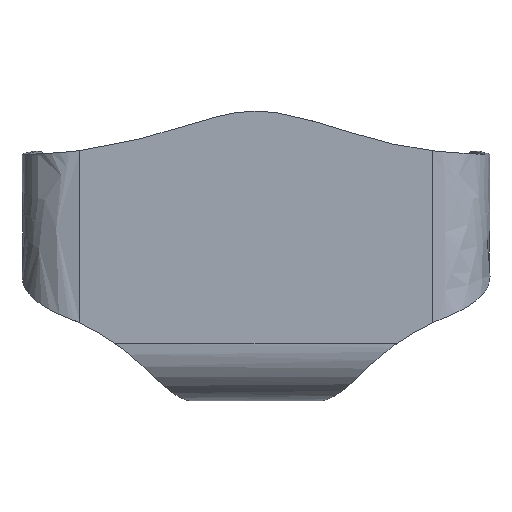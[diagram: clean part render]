
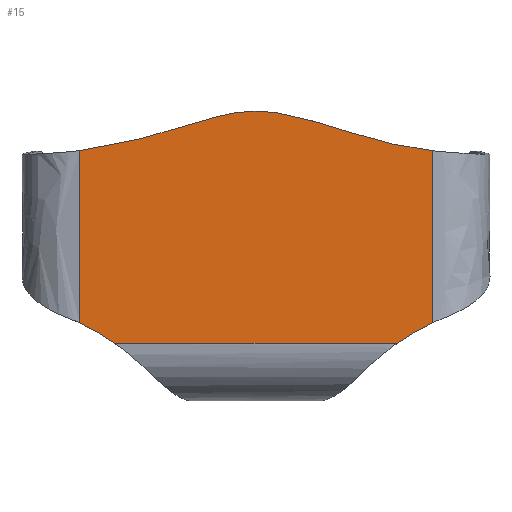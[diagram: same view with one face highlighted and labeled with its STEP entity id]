
A CAD part, top view. The second image highlights one B-rep face of the part: STEP entity #15.
In plain terms, the highlighted planar face has unit normal (0, 0, 1).
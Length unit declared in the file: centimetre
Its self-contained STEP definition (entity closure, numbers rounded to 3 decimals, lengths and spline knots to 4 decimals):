
#15=ADVANCED_FACE($,(#42),#348,.T.);
#42=FACE_OUTER_BOUND($,#69,.T.);
#69=EDGE_LOOP($,(#102,#103,#104,#105,#106,#107,#108));
#102=ORIENTED_EDGE($,*,*,#232,.T.);
#103=ORIENTED_EDGE($,*,*,#228,.F.);
#104=ORIENTED_EDGE($,*,*,#229,.F.);
#105=ORIENTED_EDGE($,*,*,#231,.F.);
#106=ORIENTED_EDGE($,*,*,#233,.T.);
#107=ORIENTED_EDGE($,*,*,#230,.F.);
#108=ORIENTED_EDGE($,*,*,#234,.T.);
#228=EDGE_CURVE($,#291,#292,#349,.T.);
#229=EDGE_CURVE($,#293,#291,#350,.T.);
#230=EDGE_CURVE($,#295,#294,#351,.T.);
#231=EDGE_CURVE($,#296,#293,#352,.T.);
#232=EDGE_CURVE($,#297,#292,#353,.T.);
#233=EDGE_CURVE($,#296,#294,#354,.T.);
#234=EDGE_CURVE($,#295,#297,#355,.T.);
#291=VERTEX_POINT($,#1841);
#292=VERTEX_POINT($,#1842);
#293=VERTEX_POINT($,#1843);
#294=VERTEX_POINT($,#1844);
#295=VERTEX_POINT($,#1845);
#296=VERTEX_POINT($,#1846);
#297=VERTEX_POINT($,#1847);
#348=PLANE($,#501);
#349=(
BOUNDED_CURVE()
B_SPLINE_CURVE(2,(#550,#551,#552,#553,#554,#555,#556),.UNSPECIFIED.,.F.,
.F.)
B_SPLINE_CURVE_WITH_KNOTS((3,2,2,3),(0.,73.4178,272.8652,
503.4732),.UNSPECIFIED.)
CURVE()
GEOMETRIC_REPRESENTATION_ITEM()
RATIONAL_B_SPLINE_CURVE((1.,0.995,1.,0.998,1.,0.995,
1.))
REPRESENTATION_ITEM($)
);
#350=(
BOUNDED_CURVE()
B_SPLINE_CURVE(2,(#557,#558,#559,#560,#561,#562,#563),.UNSPECIFIED.,.F.,
.F.)
B_SPLINE_CURVE_WITH_KNOTS((3,2,2,3),(523.7892,754.3972,953.8447,
1027.2624),.UNSPECIFIED.)
CURVE()
GEOMETRIC_REPRESENTATION_ITEM()
RATIONAL_B_SPLINE_CURVE((1.,0.995,1.,0.998,1.,0.995,
1.))
REPRESENTATION_ITEM($)
);
#351=(
BOUNDED_CURVE()
B_SPLINE_CURVE(1,(#564,#565),.UNSPECIFIED.,.F.,.F.)
B_SPLINE_CURVE_WITH_KNOTS((2,2),(-784.3588,0.),.UNSPECIFIED.)
CURVE()
GEOMETRIC_REPRESENTATION_ITEM()
RATIONAL_B_SPLINE_CURVE((1.,1.))
REPRESENTATION_ITEM($)
);
#352=(
BOUNDED_CURVE()
B_SPLINE_CURVE(1,(#566,#567),.UNSPECIFIED.,.F.,.F.)
B_SPLINE_CURVE_WITH_KNOTS((2,2),(-478.4751,0.),.UNSPECIFIED.)
CURVE()
GEOMETRIC_REPRESENTATION_ITEM()
RATIONAL_B_SPLINE_CURVE((1.,1.))
REPRESENTATION_ITEM($)
);
#353=(
BOUNDED_CURVE()
B_SPLINE_CURVE(1,(#568,#569),.UNSPECIFIED.,.F.,.F.)
B_SPLINE_CURVE_WITH_KNOTS((2,2),(-478.4751,0.),.UNSPECIFIED.)
CURVE()
GEOMETRIC_REPRESENTATION_ITEM()
RATIONAL_B_SPLINE_CURVE((1.,1.))
REPRESENTATION_ITEM($)
);
#354=(
BOUNDED_CURVE()
B_SPLINE_CURVE(2,(#570,#571,#572),.UNSPECIFIED.,.F.,.F.)
B_SPLINE_CURVE_WITH_KNOTS((3,3),(637.6695,750.6007),.UNSPECIFIED.)
CURVE()
GEOMETRIC_REPRESENTATION_ITEM()
RATIONAL_B_SPLINE_CURVE((1.,0.996,1.))
REPRESENTATION_ITEM($)
);
#355=(
BOUNDED_CURVE()
B_SPLINE_CURVE(2,(#573,#574,#575),.UNSPECIFIED.,.F.,.F.)
B_SPLINE_CURVE_WITH_KNOTS((3,3),(646.0787,759.0098),.UNSPECIFIED.)
CURVE()
GEOMETRIC_REPRESENTATION_ITEM()
RATIONAL_B_SPLINE_CURVE((1.,0.996,1.))
REPRESENTATION_ITEM($)
);
#501=AXIS2_PLACEMENT_3D($,#1147,#506,$);
#506=DIRECTION($,(0.,0.,1.));
#550=CARTESIAN_POINT($,(67.8506,81.2038,39.6783));
#551=CARTESIAN_POINT($,(71.535,81.2039,39.6783));
#552=CARTESIAN_POINT($,(75.1389,80.4383,39.6783));
#553=CARTESIAN_POINT($,(84.9039,78.3639,39.6783));
#554=CARTESIAN_POINT($,(94.3737,75.2046,39.6783));
#555=CARTESIAN_POINT($,(105.3536,71.5414,39.6783));
#556=CARTESIAN_POINT($,(116.8506,70.2008,39.6783));
#557=CARTESIAN_POINT($,(18.8506,70.2008,39.6783));
#558=CARTESIAN_POINT($,(30.3476,71.5414,39.6783));
#559=CARTESIAN_POINT($,(41.3275,75.2046,39.6783));
#560=CARTESIAN_POINT($,(50.7973,78.3639,39.6783));
#561=CARTESIAN_POINT($,(60.5623,80.4383,39.6783));
#562=CARTESIAN_POINT($,(64.1663,81.2039,39.6783));
#563=CARTESIAN_POINT($,(67.8506,81.2038,39.6783));
#564=CARTESIAN_POINT($,(107.0661,16.7045,39.6783));
#565=CARTESIAN_POINT($,(28.6343,16.7033,39.6783));
#566=CARTESIAN_POINT($,(18.8506,22.3548,39.6783));
#567=CARTESIAN_POINT($,(18.8506,70.2008,39.6783));
#568=CARTESIAN_POINT($,(116.8506,22.3548,39.6783));
#569=CARTESIAN_POINT($,(116.8506,70.2008,39.6783));
#570=CARTESIAN_POINT($,(18.8506,22.3548,39.6783));
#571=CARTESIAN_POINT($,(24.0093,19.9924,39.6783));
#572=CARTESIAN_POINT($,(28.6343,16.7033,39.6783));
#573=CARTESIAN_POINT($,(107.0661,16.7045,39.6783));
#574=CARTESIAN_POINT($,(111.6909,19.9927,39.6783));
#575=CARTESIAN_POINT($,(116.8506,22.3548,39.6783));
#1147=CARTESIAN_POINT($,(116.8506,16.0571,39.6783));
#1841=CARTESIAN_POINT($,(67.8506,81.2038,39.6783));
#1842=CARTESIAN_POINT($,(116.8506,70.2008,39.6783));
#1843=CARTESIAN_POINT($,(18.8506,70.2008,39.6783));
#1844=CARTESIAN_POINT($,(28.6343,16.7033,39.6783));
#1845=CARTESIAN_POINT($,(107.0661,16.7045,39.6783));
#1846=CARTESIAN_POINT($,(18.8506,22.3548,39.6783));
#1847=CARTESIAN_POINT($,(116.8506,22.3548,39.6783));
